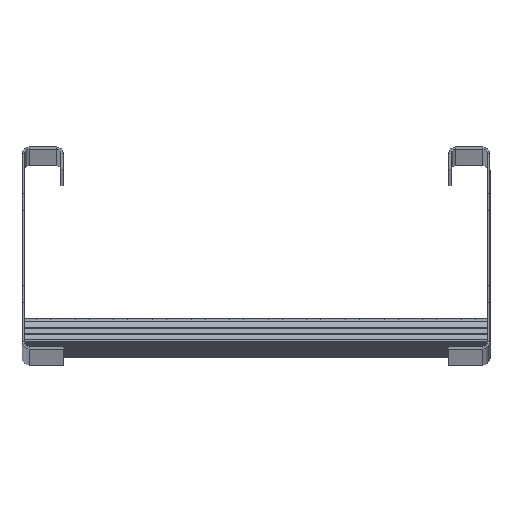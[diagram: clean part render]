
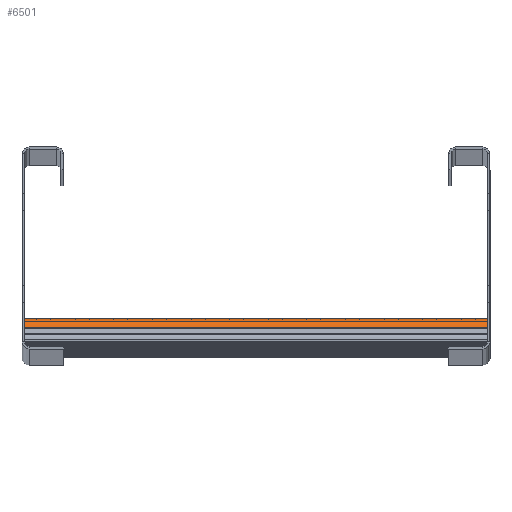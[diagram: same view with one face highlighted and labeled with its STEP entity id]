
A CAD part, top view. The second image highlights one B-rep face of the part: STEP entity #6501.
In plain terms, the highlighted cylindrical face has radius 8.1 mm (diameter 16.2 mm), a partial arc.
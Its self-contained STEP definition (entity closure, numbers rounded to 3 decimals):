
#33 = AXIS2_PLACEMENT_3D ( 'NONE', #463, #1380, #6819 ) ;
#419 = CARTESIAN_POINT ( 'NONE',  ( 150., 9.268, 15.446 ) ) ;
#463 = CARTESIAN_POINT ( 'NONE',  ( 150., 6.9, 7.7 ) ) ;
#494 = LINE ( 'NONE', #9654, #8689 ) ;
#597 = ORIENTED_EDGE ( 'NONE', *, *, #5785, .T. ) ;
#619 = AXIS2_PLACEMENT_3D ( 'NONE', #7268, #1875, #9111 ) ;
#851 = CARTESIAN_POINT ( 'NONE',  ( 150., 15., 7.7 ) ) ;
#1380 = DIRECTION ( 'NONE',  ( -1., 0., 0. ) ) ;
#1532 = CARTESIAN_POINT ( 'NONE',  ( -150., 9.268, 15.446 ) ) ;
#1635 = FACE_OUTER_BOUND ( 'NONE', #11849, .T. ) ;
#1875 = DIRECTION ( 'NONE',  ( 1., 0., 0. ) ) ;
#2183 = CARTESIAN_POINT ( 'NONE',  ( -150., 15., 7.7 ) ) ;
#3839 = VERTEX_POINT ( 'NONE', #851 ) ;
#3951 = ORIENTED_EDGE ( 'NONE', *, *, #6575, .T. ) ;
#4478 = ORIENTED_EDGE ( 'NONE', *, *, #6515, .T. ) ;
#4970 = VERTEX_POINT ( 'NONE', #2183 ) ;
#5008 = DIRECTION ( 'NONE',  ( -1., 0., 0. ) ) ;
#5022 = EDGE_CURVE ( 'NONE', #10292, #6396, #494, .T. ) ;
#5107 = CARTESIAN_POINT ( 'NONE',  ( -150., 6.9, 7.7 ) ) ;
#5164 = CIRCLE ( 'NONE', #9472, 8.1 ) ;
#5785 = EDGE_CURVE ( 'NONE', #4970, #6396, #5164, .T. ) ;
#6353 = DIRECTION ( 'NONE',  ( -1., 0., 0. ) ) ;
#6396 = VERTEX_POINT ( 'NONE', #1532 ) ;
#6501 = ADVANCED_FACE ( 'NONE', ( #1635 ), #8306, .T. ) ;
#6515 = EDGE_CURVE ( 'NONE', #3839, #4970, #9050, .T. ) ;
#6530 = CARTESIAN_POINT ( 'NONE',  ( -150., 15., 7.7 ) ) ;
#6575 = EDGE_CURVE ( 'NONE', #10292, #3839, #10778, .T. ) ;
#6819 = DIRECTION ( 'NONE',  ( 0., 0., 1. ) ) ;
#6869 = VECTOR ( 'NONE', #6353, 1000. ) ;
#7268 = CARTESIAN_POINT ( 'NONE',  ( -300.148, 6.9, 7.7 ) ) ;
#8306 = CYLINDRICAL_SURFACE ( 'NONE', #619, 8.1 ) ;
#8689 = VECTOR ( 'NONE', #5008, 1000. ) ;
#9050 = LINE ( 'NONE', #6530, #6869 ) ;
#9111 = DIRECTION ( 'NONE',  ( 0., 0., -1. ) ) ;
#9472 = AXIS2_PLACEMENT_3D ( 'NONE', #5107, #10679, #11651 ) ;
#9654 = CARTESIAN_POINT ( 'NONE',  ( -150., 9.268, 15.446 ) ) ;
#10292 = VERTEX_POINT ( 'NONE', #419 ) ;
#10629 = ORIENTED_EDGE ( 'NONE', *, *, #5022, .F. ) ;
#10679 = DIRECTION ( 'NONE',  ( 1., 0., 0. ) ) ;
#10778 = CIRCLE ( 'NONE', #33, 8.1 ) ;
#11651 = DIRECTION ( 'NONE',  ( 0., 0., -1. ) ) ;
#11849 = EDGE_LOOP ( 'NONE', ( #4478, #597, #10629, #3951 ) ) ;
